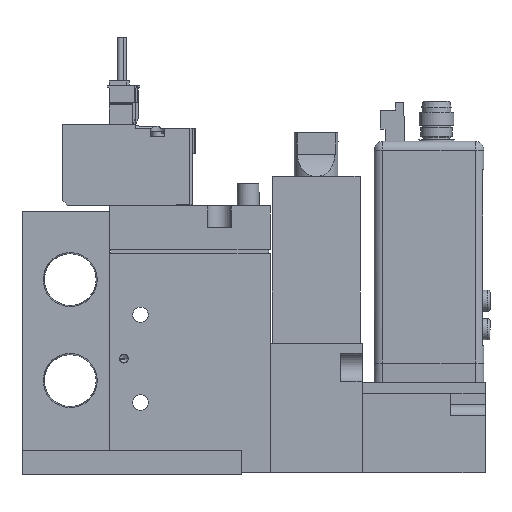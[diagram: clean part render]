
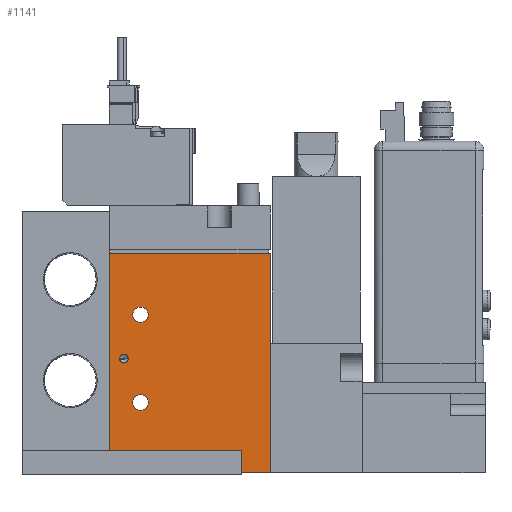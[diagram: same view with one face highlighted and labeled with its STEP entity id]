
A CAD part, left-side view. The second image highlights one B-rep face of the part: STEP entity #1141.
In plain terms, the highlighted planar face has unit normal (-1, 0, 0) as drawn and (1, 0, 0) by its records, which use the part's own axes.
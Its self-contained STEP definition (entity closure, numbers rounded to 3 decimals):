
#1141=ADVANCED_FACE('',(#2164,#2165,#2166,#2167),#2168,.F.);
#2164=FACE_BOUND('',#4051,.T.);
#2165=FACE_BOUND('',#4052,.T.);
#2166=FACE_BOUND('',#4053,.T.);
#2167=FACE_OUTER_BOUND('',#4054,.T.);
#2168=PLANE('',#4055);
#4051=EDGE_LOOP('',(#6934));
#4052=EDGE_LOOP('',(#6935));
#4053=EDGE_LOOP('',(#6936));
#4054=EDGE_LOOP('',(#6937,#6938,#6939,#6940));
#4055=AXIS2_PLACEMENT_3D('',#6941,#6942,#6943);
#6934=ORIENTED_EDGE('',*,*,#12319,.T.);
#6935=ORIENTED_EDGE('',*,*,#12317,.T.);
#6936=ORIENTED_EDGE('',*,*,#12324,.F.);
#6937=ORIENTED_EDGE('',*,*,#12325,.T.);
#6938=ORIENTED_EDGE('',*,*,#12326,.F.);
#6939=ORIENTED_EDGE('',*,*,#12327,.F.);
#6940=ORIENTED_EDGE('',*,*,#12321,.T.);
#6941=CARTESIAN_POINT('',(8.5,-19.444,50.0));
#6942=DIRECTION('',(-1.0,0.0,0.0));
#6943=DIRECTION('',(0.0,0.0,1.0));
#12317=EDGE_CURVE('',#14712,#14712,#14713,.T.);
#12319=EDGE_CURVE('',#14716,#14716,#14717,.T.);
#12321=EDGE_CURVE('',#14721,#14719,#14722,.T.);
#12324=EDGE_CURVE('',#14726,#14726,#14727,.T.);
#12325=EDGE_CURVE('',#14719,#14728,#14729,.T.);
#12326=EDGE_CURVE('',#14730,#14728,#14731,.T.);
#12327=EDGE_CURVE('',#14721,#14730,#14732,.T.);
#14712=VERTEX_POINT('',#18354);
#14713=CIRCLE('',#18355,1.75);
#14716=VERTEX_POINT('',#18358);
#14717=CIRCLE('',#18359,1.75);
#14719=VERTEX_POINT('',#18361);
#14721=VERTEX_POINT('',#18364);
#14722=LINE('',#18365,#18366);
#14726=VERTEX_POINT('',#18372);
#14727=CIRCLE('',#18373,1.0);
#14728=VERTEX_POINT('',#18374);
#14729=LINE('',#18375,#18376);
#14730=VERTEX_POINT('',#18377);
#14731=LINE('',#18378,#18379);
#14732=LINE('',#18380,#18381);
#18354=CARTESIAN_POINT('',(8.5,-10.694,36.0));
#18355=AXIS2_PLACEMENT_3D('',#22895,#22896,#22897);
#18358=CARTESIAN_POINT('',(8.5,-10.694,16.0));
#18359=AXIS2_PLACEMENT_3D('',#22901,#22902,#22903);
#18361=CARTESIAN_POINT('',(8.5,-19.444,0.0));
#18364=CARTESIAN_POINT('',(8.5,-19.444,50.0));
#18365=CARTESIAN_POINT('',(8.5,-19.444,50.0));
#18366=VECTOR('',#22905,1.0);
#18372=CARTESIAN_POINT('',(8.5,-17.244,26.0));
#18373=AXIS2_PLACEMENT_3D('',#22908,#22909,#22910);
#18374=CARTESIAN_POINT('',(8.5,17.056,0.0));
#18375=CARTESIAN_POINT('',(8.5,-19.444,0.0));
#18376=VECTOR('',#22911,1.0);
#18377=CARTESIAN_POINT('',(8.5,17.056,50.0));
#18378=CARTESIAN_POINT('',(8.5,17.056,50.0));
#18379=VECTOR('',#22912,1.0);
#18380=CARTESIAN_POINT('',(8.5,-19.444,50.0));
#18381=VECTOR('',#22913,1.0);
#22895=CARTESIAN_POINT('',(8.5,-12.444,36.0));
#22896=DIRECTION('',(-1.0,0.0,0.0));
#22897=DIRECTION('',(0.0,1.0,0.0));
#22901=CARTESIAN_POINT('',(8.5,-12.444,16.0));
#22902=DIRECTION('',(-1.0,0.0,0.0));
#22903=DIRECTION('',(0.0,1.0,0.0));
#22905=DIRECTION('',(0.0,0.0,-1.0));
#22908=CARTESIAN_POINT('',(8.5,-16.244,26.0));
#22909=DIRECTION('',(1.0,0.,0.0));
#22910=DIRECTION('',(0.,-1.0,0.0));
#22911=DIRECTION('',(0.0,1.0,0.0));
#22912=DIRECTION('',(0.0,0.0,-1.0));
#22913=DIRECTION('',(0.0,1.0,0.0));
